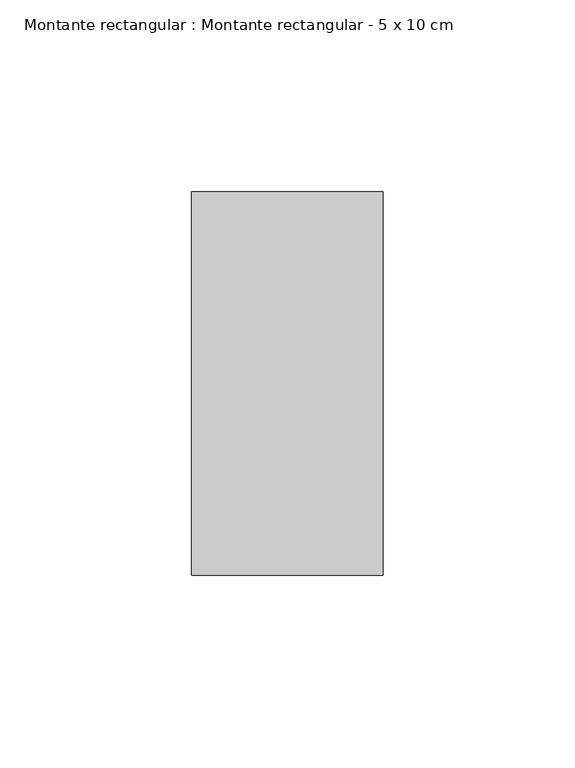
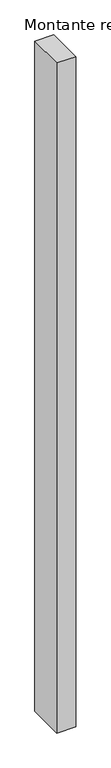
"""IFC4 building model written with IfcOpenShell, lengths in millimetres: member geometry, Montante rectangular : Montante rectangular - 5 x 10 cm."""

import ifcopenshell
import ifcopenshell.guid

model = None  # the IFC model being written
_history = None  # IfcOwnerHistory: only IFC2X3 demands one
_inside = {}  # id of a spatial element -> (the spatial element, [elements in it])
_under = {}  # id of a project, library or spatial element -> (it, [spatial elements below it])
_declared = {}  # id of a project -> (the project, [libraries it declares])
_typed = {}  # id of a type object -> (the type object, [elements of that type])
_made_of = {}  # id of a material, layer set ... -> (it, [elements and type objects made of it])


def new_model(schema):
    """Start an empty IFC model of exactly this schema.

    Asked for "IFC4X3", IfcOpenShell would pick the latest addendum, in which some entities
    have other attributes; the version numbers below select the first issue.
    IFC2X3 requires an IfcOwnerHistory on every rooted entity: one is made here for all.
    """
    global model, _history
    if schema == "IFC4X3":
        model = ifcopenshell.file(schema_version=(4, 3, 0, 0))
    else:
        model = ifcopenshell.file(schema=schema)
    _inside.clear()
    _under.clear()
    _declared.clear()
    _typed.clear()
    _made_of.clear()
    _history = None
    if model.schema == "IFC2X3":
        org = make("IfcOrganization", Name="unknown")
        user = make(
            "IfcPersonAndOrganization",
            ThePerson=make("IfcPerson", FamilyName="unknown"),
            TheOrganization=org,
        )
        app = make(
            "IfcApplication",
            ApplicationDeveloper=org,
            Version="unknown",
            ApplicationFullName="unknown",
            ApplicationIdentifier="unknown",
        )
        _history = make(
            "IfcOwnerHistory",
            OwningUser=user,
            OwningApplication=app,
            ChangeAction="ADDED",
            CreationDate=0,
        )
    return model


def make(cls, **values):
    """One entity of the class cls with the attributes given. An attribute that is None is left unset."""
    return model.create_entity(
        cls, **{name: value for name, value in values.items() if value is not None}
    )


def rooted(cls, **values):
    """An entity with a GlobalId (a new one), such as an element, a storey or a relation."""
    return make(cls, GlobalId=ifcopenshell.guid.new(), OwnerHistory=_history, **values)


def si_unit(unit_type, name, prefix=None):
    """IfcSIUnit, for example si_unit("LENGTHUNIT", "METRE", prefix="MILLI")."""
    return make("IfcSIUnit", UnitType=unit_type, Prefix=prefix, Name=name)


def assignment(units):
    """IfcUnitAssignment: the units of a project."""
    return None if units is None else make("IfcUnitAssignment", Units=units)


def point(xyz):
    """IfcCartesianPoint."""
    return None if xyz is None else make("IfcCartesianPoint", Coordinates=xyz)


def direction(xyz):
    """IfcDirection."""
    return None if xyz is None else make("IfcDirection", DirectionRatios=xyz)


def frame(location, z_axis=None, x_axis=None):
    """IfcAxis2Placement3D, a coordinate frame: its origin and axes. An axis left out is left unset."""
    return make(
        "IfcAxis2Placement3D",
        Location=point(location),
        Axis=direction(z_axis),
        RefDirection=direction(x_axis),
    )


def origin():
    """The frame at (0, 0, 0) with its axes left unset."""
    return frame((0.0, 0.0, 0.0))


def place(relative_to, where):
    """IfcLocalPlacement: puts the frame where relative to a parent placement (None: the world)."""
    return make(
        "IfcLocalPlacement", PlacementRelTo=relative_to, RelativePlacement=where
    )


def context(
    kind, dimensions, precision=None, world=None, true_north=None, identifier=None
):
    """IfcGeometricRepresentationContext, for example the 3D "Model" context."""
    return make(
        "IfcGeometricRepresentationContext",
        ContextIdentifier=identifier,
        ContextType=kind,
        CoordinateSpaceDimension=dimensions,
        Precision=precision,
        WorldCoordinateSystem=world,
        TrueNorth=true_north,
    )


def project(units=None, contexts=None):
    """IfcProject with its units and contexts."""
    return rooted(
        "IfcProject",
        Name="project",
        RepresentationContexts=contexts,
        UnitsInContext=assignment(units),
    )


def spatial(cls, under=None, at=None, **own):
    """A site, building, storey or space (cls), placed at a placement, below another one or the project."""
    s = rooted(cls, ObjectPlacement=at, **own)
    if under is not None:
        _under.setdefault(under.id(), (under, []))[1].append(s)
    return s


def polyline(points):
    """IfcPolyline through the points."""
    return make("IfcPolyline", Points=[point(p) for p in points])


def outline(outer, holes=None, kind="AREA"):
    """IfcArbitraryClosedProfileDef: a profile drawn as a closed curve; with holes, ...WithVoids."""
    if holes is None:
        return make("IfcArbitraryClosedProfileDef", ProfileType=kind, OuterCurve=outer)
    return make(
        "IfcArbitraryProfileDefWithVoids",
        ProfileType=kind,
        OuterCurve=outer,
        InnerCurves=holes,
    )


def extrude(swept, where, along, depth):
    """IfcExtrudedAreaSolid: the profile swept, set in the frame where, extruded along a direction by depth."""
    return make(
        "IfcExtrudedAreaSolid",
        SweptArea=swept,
        Position=where,
        ExtrudedDirection=direction(along),
        Depth=depth,
    )


def shape(context_of_items, identifier, shape_type, items):
    """IfcShapeRepresentation: the items that make up one representation, for example the "Body"."""
    return make(
        "IfcShapeRepresentation",
        ContextOfItems=context_of_items,
        RepresentationIdentifier=identifier,
        RepresentationType=shape_type,
        Items=items,
    )


def source(mapping_origin, context_of_items, identifier, shape_type, items):
    """IfcRepresentationMap: a shape defined once, which mapped items show again and again."""
    return make(
        "IfcRepresentationMap",
        MappingOrigin=mapping_origin,
        MappedRepresentation=shape(context_of_items, identifier, shape_type, items),
    )


def transform(
    local_origin,
    x_axis=None,
    y_axis=None,
    z_axis=None,
    scale=None,
    scale2=None,
    scale3=None,
    uniform=True,
):
    """IfcCartesianTransformationOperator3D, or its non-uniform kind. x_axis, y_axis, z_axis: its Axis1, 2, 3."""
    if uniform:
        return make(
            "IfcCartesianTransformationOperator3D",
            Axis1=direction(x_axis),
            Axis2=direction(y_axis),
            LocalOrigin=point(local_origin),
            Scale=scale,
            Axis3=direction(z_axis),
        )
    return make(
        "IfcCartesianTransformationOperator3DnonUniform",
        Axis1=direction(x_axis),
        Axis2=direction(y_axis),
        LocalOrigin=point(local_origin),
        Scale=scale,
        Axis3=direction(z_axis),
        Scale2=scale2,
        Scale3=scale3,
    )


def mapped(mapping_source, mapping_target):
    """IfcMappedItem: shows the shape of a source again, moved by a transform."""
    return make(
        "IfcMappedItem", MappingSource=mapping_source, MappingTarget=mapping_target
    )


def made_of(thing, what):
    """Note that an element or type object is made of a material, layer set ...; save() writes the relation."""
    if what is not None:
        _made_of.setdefault(what.id(), (what, []))[1].append(thing)
    return thing


def element(
    cls,
    number,
    at=None,
    inside=None,
    cuts=None,
    type_object=None,
    material=None,
    context=None,
    identifier="Body",
    shape_type=None,
    held_by="IfcProductDefinitionShape",
    body=None,
    shapes=None,
    **own,
):
    """One element of the class cls, such as IfcWall. Its Tag is "e" and its number.

    at: its placement. inside: the storey or other place that contains it. cuts: it is an
    opening in that element (IfcRelVoidsElement). A single representation is given by context,
    identifier, shape_type and body (its items); several are given by shapes. held_by: the class
    of the entity that holds the representations. save() writes the other relations.
    """
    e = rooted(cls, Tag="e%d" % number, ObjectPlacement=at, **own)
    if body is not None:
        shapes = [shape(context, identifier, shape_type, body)]
    if shapes is not None:
        e.Representation = make(held_by, Representations=shapes)
    if inside is not None:
        _inside.setdefault(inside.id(), (inside, []))[1].append(e)
    if cuts is not None:
        rooted(
            "IfcRelVoidsElement", RelatingBuildingElement=cuts, RelatedOpeningElement=e
        )
    if type_object is not None:
        _typed.setdefault(type_object.id(), (type_object, []))[1].append(e)
    return made_of(e, material)


def aggregate(whole, parts):
    """IfcRelAggregates: a whole, such as a stair, and the parts it consists of."""
    return rooted("IfcRelAggregates", RelatingObject=whole, RelatedObjects=parts)


def save(model, path):
    """Write the relations noted so far, then the file.

    IfcRelAggregates (storeys below a building ...), IfcRelContainedInSpatialStructure (elements
    in a storey), IfcRelDefinesByType, IfcRelAssociatesMaterial and IfcRelDeclares: one each for
    every whole, place, type object, material and project.
    """
    for whole, parts in _under.values():
        aggregate(whole, parts)
    for where, things in _inside.values():
        rooted(
            "IfcRelContainedInSpatialStructure",
            RelatedElements=things,
            RelatingStructure=where,
        )
    for kind, things in _typed.values():
        rooted("IfcRelDefinesByType", RelatedObjects=things, RelatingType=kind)
    for what, things in _made_of.values():
        rooted("IfcRelAssociatesMaterial", RelatedObjects=things, RelatingMaterial=what)
    for by, libraries in _declared.values():
        rooted("IfcRelDeclares", RelatingContext=by, RelatedDefinitions=libraries)
    model.write(path)


def montante_rectangular_montante_rectangular_5_x_10_cm_34212a2b(model_context):
    return source(origin(), model_context, "Body", "SweptSolid", [
        extrude(outline(polyline([(-50.0, 50.0), (0.0, 50.0), (0.0, -50.0), (-50.0, -50.0), (-50.0, 50.0)])), frame((0.0, 0.0, -1875.0), z_axis=(0.0, 0.0, 1.0), x_axis=(1.0, 0.0, 0.0)), (0.0, 0.0, 1.0), 1875.0),
    ])


if __name__ == "__main__":
    model = new_model("IFC4")
    model_context = context("Model", 3, world=origin())
    ifc_project = project(units=[si_unit("LENGTHUNIT", "METRE", prefix="MILLI")], contexts=[model_context])
    site = spatial("IfcSite", under=ifc_project)
    building = spatial("IfcBuilding", under=site)
    placement = place(None, origin())
    montante_rectangular_montante_rectangular_5_x_10_cm_shape = montante_rectangular_montante_rectangular_5_x_10_cm_34212a2b(model_context)
    element("IfcMember", 1, ObjectType="Montante rectangular : Montante rectangular - 5 x 10 cm", at=placement, inside=building, context=model_context, shape_type="MappedRepresentation", body=[
        mapped(montante_rectangular_montante_rectangular_5_x_10_cm_shape, transform((0.0, 0.0, 0.0), x_axis=(1.0, 0.0, 0.0), y_axis=(0.0, 1.0, 0.0), z_axis=(0.0, 0.0, 1.0))),
    ])
    save(model, "model.ifc")
